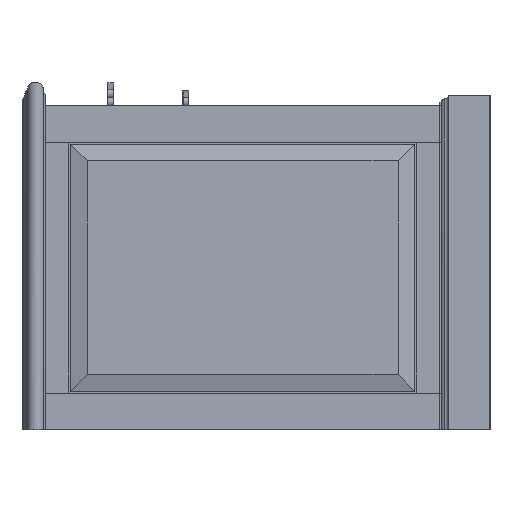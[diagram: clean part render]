
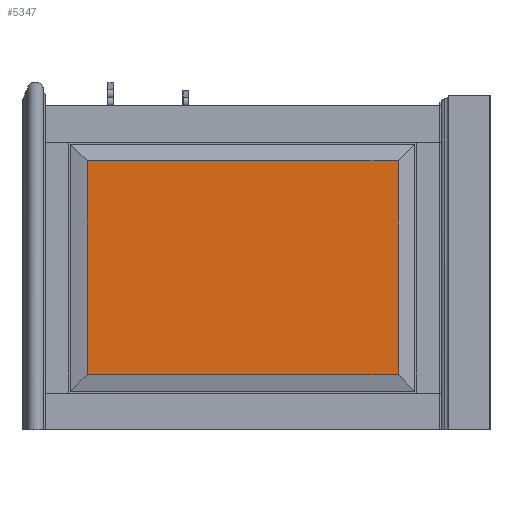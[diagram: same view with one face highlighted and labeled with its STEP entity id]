
A CAD part, left-side view. The second image highlights one B-rep face of the part: STEP entity #5347.
In plain terms, the highlighted planar face has unit normal (-1, 0, 0).
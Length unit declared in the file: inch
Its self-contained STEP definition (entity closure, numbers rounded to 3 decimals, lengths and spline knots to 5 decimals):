
#1178=FACE_OUTER_BOUND('',#1467,.T.);
#1467=EDGE_LOOP('',(#4327,#4328,#4329,#4330));
#1863=LINE('',#7935,#2414);
#1872=LINE('',#7953,#2423);
#1885=LINE('',#7979,#2436);
#1890=LINE('',#7988,#2441);
#2414=VECTOR('',#6618,0.3937);
#2423=VECTOR('',#6633,0.3937);
#2436=VECTOR('',#6654,0.3937);
#2441=VECTOR('',#6665,0.3937);
#2889=VERTEX_POINT('',#7929);
#2891=VERTEX_POINT('',#7933);
#2897=VERTEX_POINT('',#7950);
#2906=VERTEX_POINT('',#7976);
#3377=EDGE_CURVE('',#2889,#2891,#1863,.T.);
#3386=EDGE_CURVE('',#2897,#2889,#1872,.T.);
#3399=EDGE_CURVE('',#2906,#2897,#1885,.T.);
#3404=EDGE_CURVE('',#2891,#2906,#1890,.T.);
#4327=ORIENTED_EDGE('',*,*,#3377,.T.);
#4328=ORIENTED_EDGE('',*,*,#3404,.T.);
#4329=ORIENTED_EDGE('',*,*,#3399,.T.);
#4330=ORIENTED_EDGE('',*,*,#3386,.T.);
#5080=PLANE('',#5866);
#5347=ADVANCED_FACE('',(#1178),#5080,.T.);
#5866=AXIS2_PLACEMENT_3D('',#8008,#6687,#6688);
#6618=DIRECTION('',(0.,1.,0.));
#6633=DIRECTION('',(0.,0.,1.));
#6654=DIRECTION('',(0.,-1.,0.));
#6665=DIRECTION('',(0.,0.,-1.));
#6687=DIRECTION('center_axis',(-1.,0.,0.));
#6688=DIRECTION('ref_axis',(0.,0.,1.));
#7929=CARTESIAN_POINT('',(0.25,-26.875,-4.125));
#7933=CARTESIAN_POINT('',(0.25,-3.625,-4.125));
#7935=CARTESIAN_POINT('',(0.25,-21.0625,-4.125));
#7950=CARTESIAN_POINT('',(0.25,-26.875,-20.125));
#7953=CARTESIAN_POINT('',(0.25,-26.875,-16.125));
#7976=CARTESIAN_POINT('',(0.25,-3.625,-20.125));
#7979=CARTESIAN_POINT('',(0.25,-9.4375,-20.125));
#7988=CARTESIAN_POINT('',(0.25,-3.625,-7.4375));
#8008=CARTESIAN_POINT('Origin',(0.25,-15.25,-12.125));
